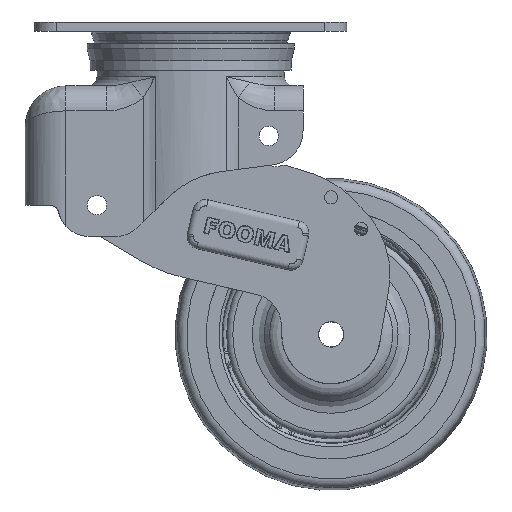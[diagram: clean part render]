
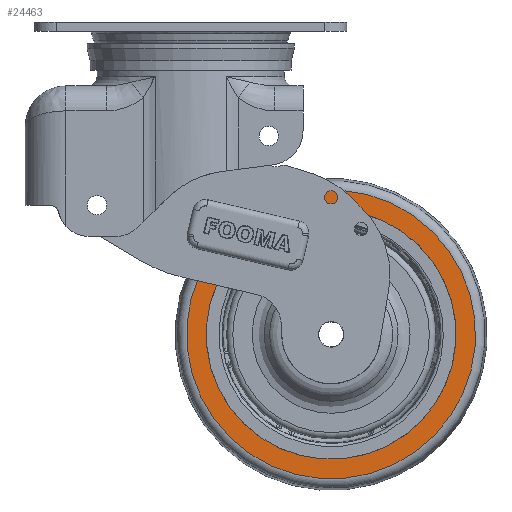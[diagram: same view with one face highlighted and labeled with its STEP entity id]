
A CAD part, front view. The second image highlights one B-rep face of the part: STEP entity #24463.
In plain terms, the highlighted planar face has unit normal (0, -1, 0).
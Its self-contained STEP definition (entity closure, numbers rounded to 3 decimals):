
#24432=CARTESIAN_POINT('',(65.086,-14.7,-137.609));
#24433=VERTEX_POINT('',#24432);
#24434=CARTESIAN_POINT('',(45.,-14.7,-95.9));
#24435=DIRECTION('',(0.0,1.,0.0));
#24436=DIRECTION('',(0.434,0.0,-0.901));
#24437=AXIS2_PLACEMENT_3D('',#24434,#24435,#24436);
#24438=CIRCLE('',#24437,46.293);
#24439=EDGE_CURVE('',#24433,#24433,#24438,.T.);
#24444=CARTESIAN_POINT('',(63.07,-14.7,-133.422));
#24445=DIRECTION('',(0.0,-1.0,0.0));
#24446=DIRECTION('',(-0.901,0.0,-0.434));
#24447=AXIS2_PLACEMENT_3D('',#24444,#24445,#24446);
#24448=PLANE('',#24447);
#24449=ORIENTED_EDGE('',*,*,#24439,.F.);
#24450=EDGE_LOOP('',(#24449));
#24451=FACE_OUTER_BOUND('',#24450,.T.);
#24452=CARTESIAN_POINT('',(27.628,-14.7,-59.827));
#24453=VERTEX_POINT('',#24452);
#24454=CARTESIAN_POINT('',(45.,-14.7,-95.9));
#24455=DIRECTION('',(0.0,-1.,0.0));
#24456=DIRECTION('',(0.434,0.0,-0.901));
#24457=AXIS2_PLACEMENT_3D('',#24454,#24455,#24456);
#24458=CIRCLE('',#24457,40.037);
#24459=EDGE_CURVE('',#24453,#24453,#24458,.T.);
#24460=ORIENTED_EDGE('',*,*,#24459,.F.);
#24461=EDGE_LOOP('',(#24460));
#24462=FACE_BOUND('',#24461,.T.);
#24463=ADVANCED_FACE('',(#24451,#24462),#24448,.T.);
